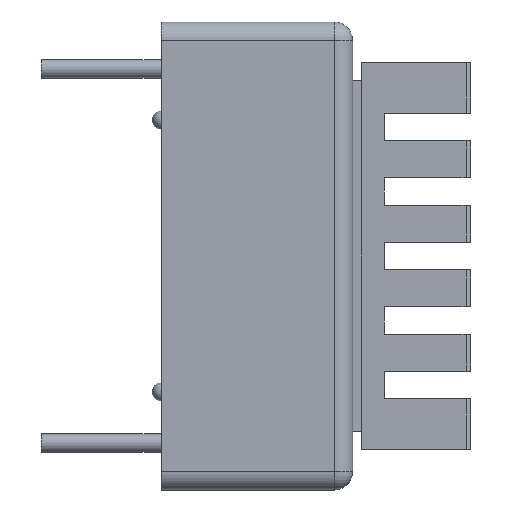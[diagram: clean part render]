
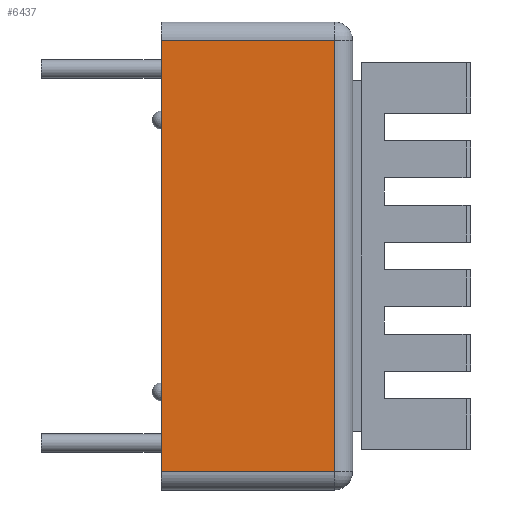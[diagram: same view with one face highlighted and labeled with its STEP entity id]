
A CAD part, left-side view. The second image highlights one B-rep face of the part: STEP entity #6437.
In plain terms, the highlighted planar face has unit normal (-1, 0, 0).
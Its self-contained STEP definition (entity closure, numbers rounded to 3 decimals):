
#550=ORIENTED_EDGE('',*,*,#2526,.T.);
#551=ORIENTED_EDGE('',*,*,#2527,.T.);
#552=ORIENTED_EDGE('',*,*,#2528,.F.);
#553=ORIENTED_EDGE('',*,*,#2529,.T.);
#2526=EDGE_CURVE('',#3514,#3515,#4134,.T.);
#2527=EDGE_CURVE('',#3515,#3516,#4135,.F.);
#2528=EDGE_CURVE('',#3517,#3516,#4136,.T.);
#2529=EDGE_CURVE('',#3517,#3514,#4137,.T.);
#3514=VERTEX_POINT('',#9699);
#3515=VERTEX_POINT('',#9700);
#3516=VERTEX_POINT('',#9702);
#3517=VERTEX_POINT('',#9704);
#4134=LINE('',#9698,#4778);
#4135=LINE('',#9701,#4779);
#4136=LINE('',#9703,#4780);
#4137=LINE('',#9705,#4781);
#4778=VECTOR('',#7583,1000.);
#4779=VECTOR('',#7584,1000.);
#4780=VECTOR('',#7585,1000.);
#4781=VECTOR('',#7586,1000.);
#5416=EDGE_LOOP('',(#550,#551,#552,#553));
#5822=FACE_BOUND('',#5416,.T.);
#6227=PLANE('',#6838);
#6437=ADVANCED_FACE('',(#5822),#6227,.F.);
#6838=AXIS2_PLACEMENT_3D('',#9697,#7581,#7582);
#7581=DIRECTION('',(1.,0.,0.));
#7582=DIRECTION('',(0.,0.,-1.));
#7583=DIRECTION('',(0.,0.,1.));
#7584=DIRECTION('',(0.,-1.,0.));
#7585=DIRECTION('',(0.,0.,1.));
#7586=DIRECTION('',(0.,-1.,0.));
#9697=CARTESIAN_POINT('',(-12.7,10.4,-15.471));
#9698=CARTESIAN_POINT('',(-12.7,1.,-15.471));
#9699=CARTESIAN_POINT('',(-12.7,1.,-14.471));
#9700=CARTESIAN_POINT('',(-12.7,1.,8.929));
#9701=CARTESIAN_POINT('',(-12.7,10.4,8.929));
#9702=CARTESIAN_POINT('',(-12.7,10.4,8.929));
#9703=CARTESIAN_POINT('',(-12.7,10.4,-15.471));
#9704=CARTESIAN_POINT('',(-12.7,10.4,-14.471));
#9705=CARTESIAN_POINT('',(-12.7,10.4,-14.471));
